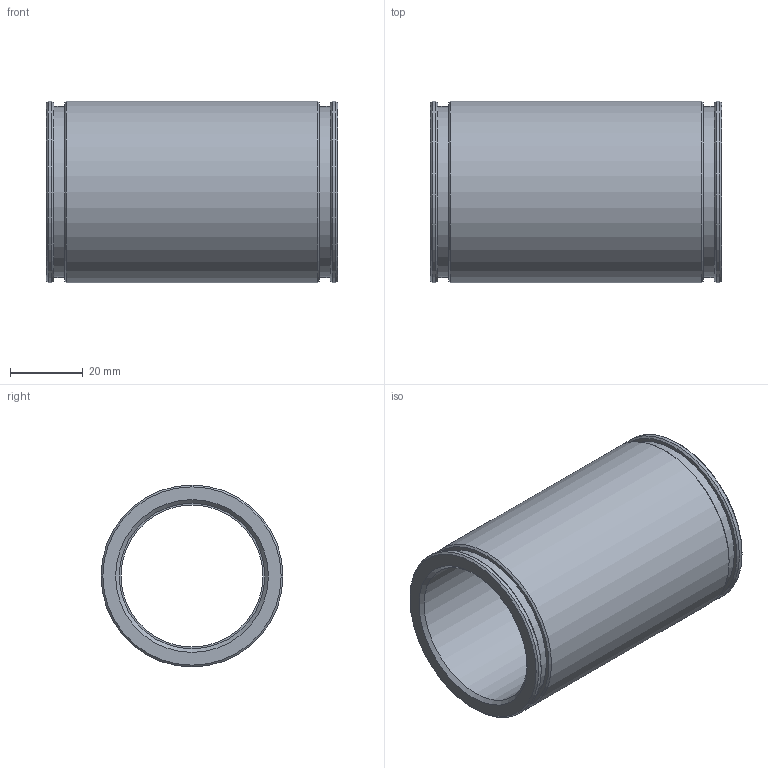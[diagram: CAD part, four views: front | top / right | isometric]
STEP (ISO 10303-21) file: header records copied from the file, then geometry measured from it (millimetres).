
FILE_DESCRIPTION( ( 'STEP AP214' ), '1' );
FILE_NAME( 'p:/temp/worker_3/temp/app_72_02018121420350830014419192d056f_000000_00_00_000000/format_0/6110-40.stp', '2018-12-14T19:35:08', ( '' ), ( '' ), ' ', 'PARTsolutions', ' ' );
FILE_SCHEMA( ( 'AUTOMOTIVE_DESIGN { 1 0 10303 214 1 1 1 1 }' ) );
Length unit declared in the file: millimetre
Products named in the file (1): _6110-40
Bounding box: 80 x 50 x 50 mm (x, y, z)
Volume: 54963.6 mm3; surface area: 24590.7 mm2
Topology: 1 solids, 1 shells, 24 faces, 40 edges, 24 vertices
Faces by surface type: plane 8, cone 8, cylinder 8
Full cylindrical faces by diameter (mm): 39 x1, 40 x2, 47 x2, 50 x3
Entity records: 696 total; most frequent: DIRECTION 98, CARTESIAN_POINT 73, AXIS2_PLACEMENT_3D 49, EDGE_LOOP 48, ORIENTED_EDGE 48, FACE_OUTER_BOUND 32, STYLED_ITEM 24, PRESENTATION_STYLE_ASSIGNMENT 24
